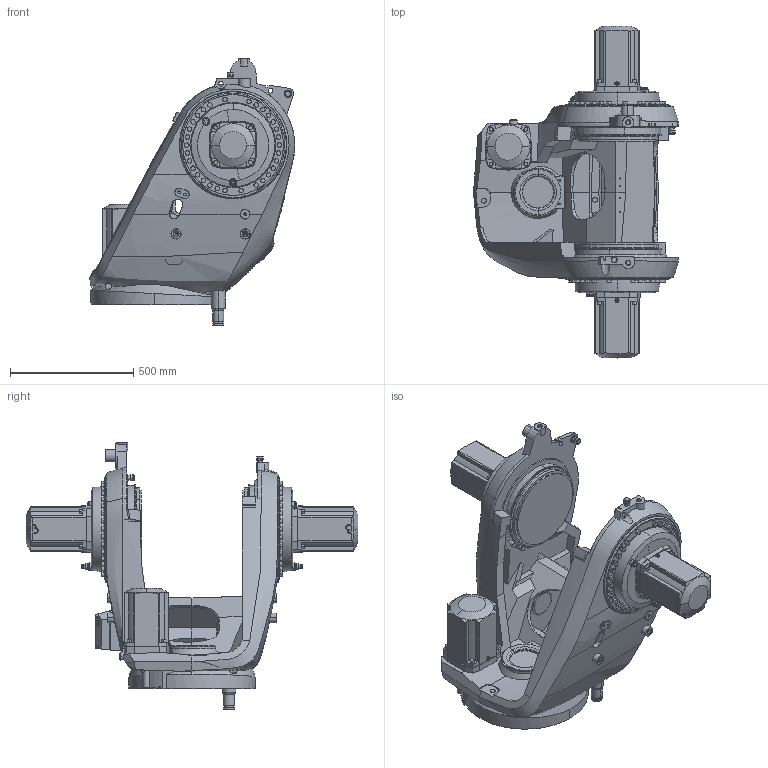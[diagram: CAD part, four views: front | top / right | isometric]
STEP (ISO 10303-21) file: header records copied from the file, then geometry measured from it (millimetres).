
FILE_DESCRIPTION (( 'STEP AP214' ), '1' );
FILE_NAME ('IRB77X0_All_OC_00_LINK01_CAD.STEP', '2023-12-12T13:04:04', ( '' ), ( '' ), 'SwSTEP 2.0', 'SolidWorks 2022', '' );
FILE_SCHEMA (( 'AUTOMOTIVE_DESIGN' ));
Length unit declared in the file: millimetre
Products named in the file (1): IRB77X0_All_OC_00_LINK01_CAD
Bounding box: 830.89 x 1345.2 x 1083.5 mm (x, y, z)
Volume: 142098255.1 mm3; surface area: 4433264.4 mm2
Topology: 1 solids, 2 shells, 1939 faces, 4991 edges, 3226 vertices
Faces by surface type: plane 792, cylinder 438, cone 370, bspline 206, torus 124, sphere 9
Entity records: 120127 total; most frequent: CARTESIAN_POINT 73239, ORIENTED_EDGE 9950, DIRECTION 8692, EDGE_CURVE 4975, AXIS2_PLACEMENT_3D 3315, VERTEX_POINT 3226, EDGE_LOOP 2151, LINE 2062
